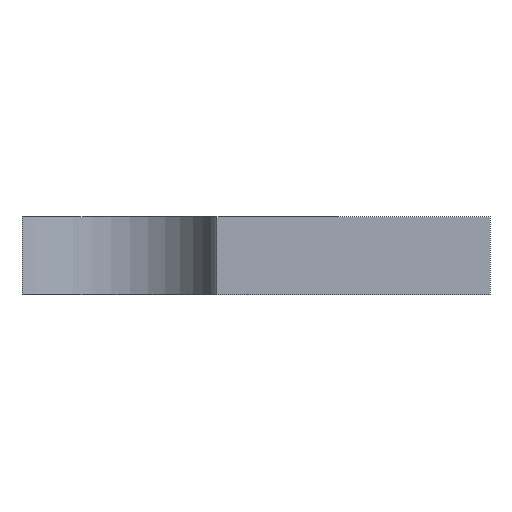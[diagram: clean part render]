
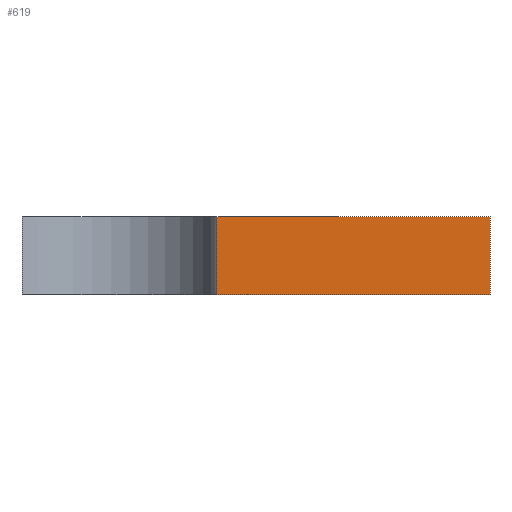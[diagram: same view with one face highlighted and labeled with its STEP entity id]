
A CAD part, front view. The second image highlights one B-rep face of the part: STEP entity #619.
In plain terms, the highlighted planar face has unit normal (0, -1, 0).
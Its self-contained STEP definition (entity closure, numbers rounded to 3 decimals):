
#44 = PLANE('',#45);
#45 = AXIS2_PLACEMENT_3D('',#46,#47,#48);
#46 = CARTESIAN_POINT('',(-49.,-44.,26.));
#47 = DIRECTION('',(0.,0.,1.));
#48 = DIRECTION('',(1.,0.,0.));
#71 = CYLINDRICAL_SURFACE('',#72,3.);
#72 = AXIS2_PLACEMENT_3D('',#73,#74,#75);
#73 = CARTESIAN_POINT('',(-47.,-44.,23.));
#74 = DIRECTION('',(-0.,-0.,-1.));
#75 = DIRECTION('',(1.,0.,0.));
#98 = PLANE('',#99);
#99 = AXIS2_PLACEMENT_3D('',#100,#101,#102);
#100 = CARTESIAN_POINT('',(-49.,-44.,24.));
#101 = DIRECTION('',(0.,0.,1.));
#102 = DIRECTION('',(1.,0.,0.));
#141 = VERTEX_POINT('',#142);
#142 = CARTESIAN_POINT('',(-44.,-44.,26.));
#168 = EDGE_CURVE('',#141,#169,#171,.T.);
#169 = VERTEX_POINT('',#170);
#170 = CARTESIAN_POINT('',(-37.,-44.,26.));
#171 = SURFACE_CURVE('',#172,(#176,#183),.PCURVE_S1.);
#172 = LINE('',#173,#174);
#173 = CARTESIAN_POINT('',(-49.,-44.,26.));
#174 = VECTOR('',#175,1.);
#175 = DIRECTION('',(1.,0.,0.));
#176 = PCURVE('',#44,#177);
#177 = DEFINITIONAL_REPRESENTATION('',(#178),#182);
#178 = LINE('',#179,#180);
#179 = CARTESIAN_POINT('',(0.,0.));
#180 = VECTOR('',#181,1.);
#181 = DIRECTION('',(1.,0.));
#182 = ( GEOMETRIC_REPRESENTATION_CONTEXT(2) 
PARAMETRIC_REPRESENTATION_CONTEXT() REPRESENTATION_CONTEXT('2D SPACE',''
  ) );
#183 = PCURVE('',#184,#189);
#184 = PLANE('',#185);
#185 = AXIS2_PLACEMENT_3D('',#186,#187,#188);
#186 = CARTESIAN_POINT('',(-49.,-44.,24.));
#187 = DIRECTION('',(0.,1.,0.));
#188 = DIRECTION('',(0.,0.,1.));
#189 = DEFINITIONAL_REPRESENTATION('',(#190),#194);
#190 = LINE('',#191,#192);
#191 = CARTESIAN_POINT('',(2.,0.));
#192 = VECTOR('',#193,1.);
#193 = DIRECTION('',(0.,1.));
#194 = ( GEOMETRIC_REPRESENTATION_CONTEXT(2) 
PARAMETRIC_REPRESENTATION_CONTEXT() REPRESENTATION_CONTEXT('2D SPACE',''
  ) );
#212 = PLANE('',#213);
#213 = AXIS2_PLACEMENT_3D('',#214,#215,#216);
#214 = CARTESIAN_POINT('',(-37.,-44.,24.));
#215 = DIRECTION('',(1.,0.,0.));
#216 = DIRECTION('',(0.,0.,1.));
#404 = VERTEX_POINT('',#405);
#405 = CARTESIAN_POINT('',(-44.,-44.,24.));
#431 = EDGE_CURVE('',#404,#432,#434,.T.);
#432 = VERTEX_POINT('',#433);
#433 = CARTESIAN_POINT('',(-37.,-44.,24.));
#434 = SURFACE_CURVE('',#435,(#439,#446),.PCURVE_S1.);
#435 = LINE('',#436,#437);
#436 = CARTESIAN_POINT('',(-49.,-44.,24.));
#437 = VECTOR('',#438,1.);
#438 = DIRECTION('',(1.,0.,0.));
#439 = PCURVE('',#98,#440);
#440 = DEFINITIONAL_REPRESENTATION('',(#441),#445);
#441 = LINE('',#442,#443);
#442 = CARTESIAN_POINT('',(0.,0.));
#443 = VECTOR('',#444,1.);
#444 = DIRECTION('',(1.,0.));
#445 = ( GEOMETRIC_REPRESENTATION_CONTEXT(2) 
PARAMETRIC_REPRESENTATION_CONTEXT() REPRESENTATION_CONTEXT('2D SPACE',''
  ) );
#446 = PCURVE('',#184,#447);
#447 = DEFINITIONAL_REPRESENTATION('',(#448),#452);
#448 = LINE('',#449,#450);
#449 = CARTESIAN_POINT('',(0.,0.));
#450 = VECTOR('',#451,1.);
#451 = DIRECTION('',(0.,1.));
#452 = ( GEOMETRIC_REPRESENTATION_CONTEXT(2) 
PARAMETRIC_REPRESENTATION_CONTEXT() REPRESENTATION_CONTEXT('2D SPACE',''
  ) );
#570 = EDGE_CURVE('',#404,#141,#571,.T.);
#571 = SURFACE_CURVE('',#572,(#576,#583),.PCURVE_S1.);
#572 = LINE('',#573,#574);
#573 = CARTESIAN_POINT('',(-44.,-44.,23.));
#574 = VECTOR('',#575,1.);
#575 = DIRECTION('',(0.,0.,1.));
#576 = PCURVE('',#71,#577);
#577 = DEFINITIONAL_REPRESENTATION('',(#578),#582);
#578 = LINE('',#579,#580);
#579 = CARTESIAN_POINT('',(-0.,0.));
#580 = VECTOR('',#581,1.);
#581 = DIRECTION('',(-0.,-1.));
#582 = ( GEOMETRIC_REPRESENTATION_CONTEXT(2) 
PARAMETRIC_REPRESENTATION_CONTEXT() REPRESENTATION_CONTEXT('2D SPACE',''
  ) );
#583 = PCURVE('',#184,#584);
#584 = DEFINITIONAL_REPRESENTATION('',(#585),#589);
#585 = LINE('',#586,#587);
#586 = CARTESIAN_POINT('',(-1.,5.));
#587 = VECTOR('',#588,1.);
#588 = DIRECTION('',(1.,0.));
#589 = ( GEOMETRIC_REPRESENTATION_CONTEXT(2) 
PARAMETRIC_REPRESENTATION_CONTEXT() REPRESENTATION_CONTEXT('2D SPACE',''
  ) );
#596 = EDGE_CURVE('',#432,#169,#597,.T.);
#597 = SURFACE_CURVE('',#598,(#602,#609),.PCURVE_S1.);
#598 = LINE('',#599,#600);
#599 = CARTESIAN_POINT('',(-37.,-44.,24.));
#600 = VECTOR('',#601,1.);
#601 = DIRECTION('',(0.,0.,1.));
#602 = PCURVE('',#212,#603);
#603 = DEFINITIONAL_REPRESENTATION('',(#604),#608);
#604 = LINE('',#605,#606);
#605 = CARTESIAN_POINT('',(0.,0.));
#606 = VECTOR('',#607,1.);
#607 = DIRECTION('',(1.,0.));
#608 = ( GEOMETRIC_REPRESENTATION_CONTEXT(2) 
PARAMETRIC_REPRESENTATION_CONTEXT() REPRESENTATION_CONTEXT('2D SPACE',''
  ) );
#609 = PCURVE('',#184,#610);
#610 = DEFINITIONAL_REPRESENTATION('',(#611),#615);
#611 = LINE('',#612,#613);
#612 = CARTESIAN_POINT('',(0.,12.));
#613 = VECTOR('',#614,1.);
#614 = DIRECTION('',(1.,0.));
#615 = ( GEOMETRIC_REPRESENTATION_CONTEXT(2) 
PARAMETRIC_REPRESENTATION_CONTEXT() REPRESENTATION_CONTEXT('2D SPACE',''
  ) );
#619 = ADVANCED_FACE('',(#620),#184,.F.);
#620 = FACE_BOUND('',#621,.F.);
#621 = EDGE_LOOP('',(#622,#623,#624,#625));
#622 = ORIENTED_EDGE('',*,*,#431,.F.);
#623 = ORIENTED_EDGE('',*,*,#570,.T.);
#624 = ORIENTED_EDGE('',*,*,#168,.T.);
#625 = ORIENTED_EDGE('',*,*,#596,.F.);
